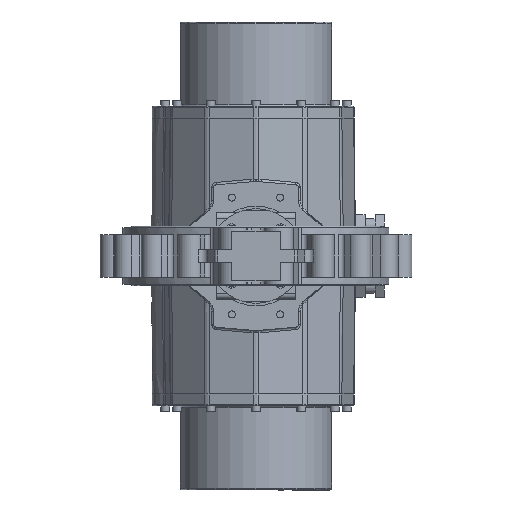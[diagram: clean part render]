
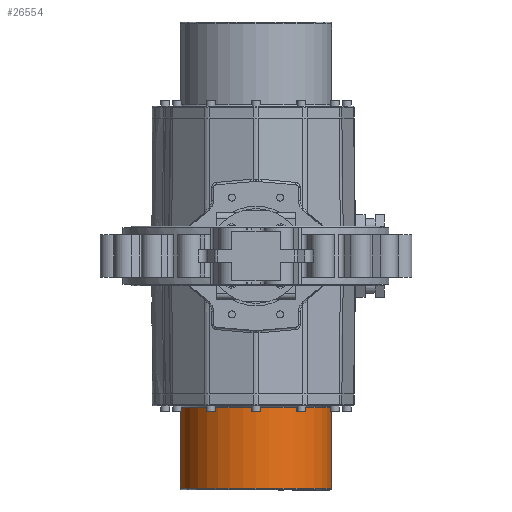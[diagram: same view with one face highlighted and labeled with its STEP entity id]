
A CAD part, front view. The second image highlights one B-rep face of the part: STEP entity #26554.
In plain terms, the highlighted cylindrical face has radius 152 mm (diameter 304 mm), a partial arc.
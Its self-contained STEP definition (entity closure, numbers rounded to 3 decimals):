
#2534 = ORIENTED_EDGE ( 'NONE', *, *, #37994, .T. ) ;
#3437 = DIRECTION ( 'NONE',  ( 0., 0., -1. ) ) ;
#3624 = ORIENTED_EDGE ( 'NONE', *, *, #12010, .T. ) ;
#5021 = AXIS2_PLACEMENT_3D ( 'NONE', #36464, #19268, #33475 ) ;
#5476 = VERTEX_POINT ( 'NONE', #8770 ) ;
#6165 = AXIS2_PLACEMENT_3D ( 'NONE', #38472, #38704, #3437 ) ;
#8770 = CARTESIAN_POINT ( 'NONE',  ( -466., 0., -152. ) ) ;
#9341 = ORIENTED_EDGE ( 'NONE', *, *, #44744, .F. ) ;
#12010 = EDGE_CURVE ( 'NONE', #13497, #5476, #15607, .T. ) ;
#12759 = DIRECTION ( 'NONE',  ( -1., 0., 0. ) ) ;
#13497 = VERTEX_POINT ( 'NONE', #28308 ) ;
#14874 = ORIENTED_EDGE ( 'NONE', *, *, #40192, .T. ) ;
#15607 = CIRCLE ( 'NONE', #6165, 152. ) ;
#16674 = CIRCLE ( 'NONE', #24030, 152. ) ;
#19245 = CARTESIAN_POINT ( 'NONE',  ( -305., 0., 0. ) ) ;
#19268 = DIRECTION ( 'NONE',  ( -1., 0., 0. ) ) ;
#19806 = VECTOR ( 'NONE', #43133, 1000. ) ;
#20644 = VERTEX_POINT ( 'NONE', #41560 ) ;
#24030 = AXIS2_PLACEMENT_3D ( 'NONE', #19245, #26810, #26122 ) ;
#24407 = VECTOR ( 'NONE', #12759, 1000. ) ;
#25253 = CYLINDRICAL_SURFACE ( 'NONE', #5021, 152. ) ;
#26122 = DIRECTION ( 'NONE',  ( 0., 0., -1. ) ) ;
#26554 = ADVANCED_FACE ( 'NONE', ( #42489 ), #25253, .T. ) ;
#26810 = DIRECTION ( 'NONE',  ( -1., 0., 0. ) ) ;
#27824 = EDGE_LOOP ( 'NONE', ( #9341, #2534, #14874, #3624 ) ) ;
#28308 = CARTESIAN_POINT ( 'NONE',  ( -466., 0., 152. ) ) ;
#29107 = CARTESIAN_POINT ( 'NONE',  ( 470., 0., 152. ) ) ;
#30925 = CARTESIAN_POINT ( 'NONE',  ( -305., 0., 152. ) ) ;
#33475 = DIRECTION ( 'NONE',  ( 0., 0., 1. ) ) ;
#36162 = LINE ( 'NONE', #44218, #24407 ) ;
#36464 = CARTESIAN_POINT ( 'NONE',  ( 470., 0., 0. ) ) ;
#37994 = EDGE_CURVE ( 'NONE', #20644, #44465, #16674, .T. ) ;
#38472 = CARTESIAN_POINT ( 'NONE',  ( -466., 0., 0. ) ) ;
#38704 = DIRECTION ( 'NONE',  ( 1., 0., 0. ) ) ;
#39689 = LINE ( 'NONE', #29107, #19806 ) ;
#40192 = EDGE_CURVE ( 'NONE', #44465, #13497, #39689, .T. ) ;
#41560 = CARTESIAN_POINT ( 'NONE',  ( -305., 0., -152. ) ) ;
#42489 = FACE_OUTER_BOUND ( 'NONE', #27824, .T. ) ;
#43133 = DIRECTION ( 'NONE',  ( -1., 0., 0. ) ) ;
#44218 = CARTESIAN_POINT ( 'NONE',  ( 470., 0., -152. ) ) ;
#44465 = VERTEX_POINT ( 'NONE', #30925 ) ;
#44744 = EDGE_CURVE ( 'NONE', #20644, #5476, #36162, .T. ) ;
